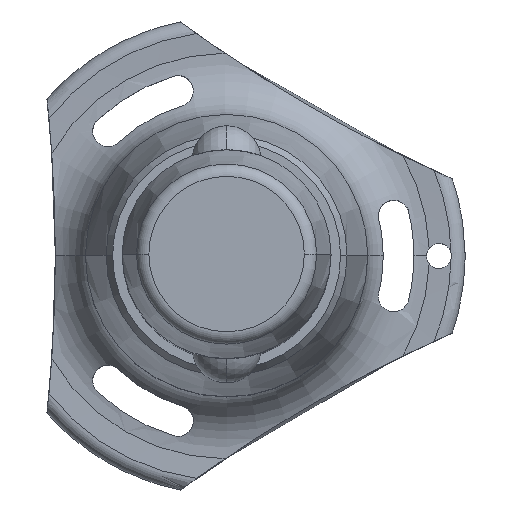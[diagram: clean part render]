
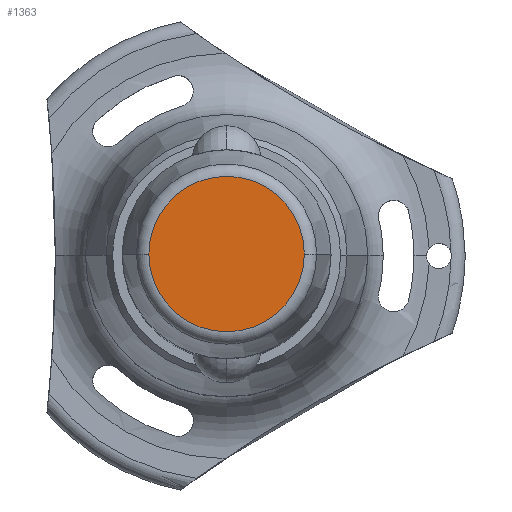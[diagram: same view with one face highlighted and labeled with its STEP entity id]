
A CAD part, top view. The second image highlights one B-rep face of the part: STEP entity #1363.
In plain terms, the highlighted planar face has unit normal (0, 0, 1).
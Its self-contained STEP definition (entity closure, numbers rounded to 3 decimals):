
#300 = DIRECTION ( 'NONE',  ( 0., 0., 1. ) ) ;
#361 = CARTESIAN_POINT ( 'NONE',  ( -9.302, 0., 22. ) ) ;
#415 = AXIS2_PLACEMENT_3D ( 'NONE', #2259, #300, #1843 ) ;
#682 = CARTESIAN_POINT ( 'NONE',  ( 0., 0., 22. ) ) ;
#764 = ORIENTED_EDGE ( 'NONE', *, *, #1319, .T. ) ;
#826 = EDGE_LOOP ( 'NONE', ( #764, #1645 ) ) ;
#871 = DIRECTION ( 'NONE',  ( 1., 0., 0. ) ) ;
#898 = CARTESIAN_POINT ( 'NONE',  ( 0., 0., 22. ) ) ;
#913 = DIRECTION ( 'NONE',  ( 1., 0., 0. ) ) ;
#983 = PLANE ( 'NONE',  #415 ) ;
#1183 = VERTEX_POINT ( 'NONE', #361 ) ;
#1319 = EDGE_CURVE ( 'NONE', #1379, #1183, #2440, .T. ) ;
#1363 = ADVANCED_FACE ( 'NONE', ( #2645 ), #983, .T. ) ;
#1379 = VERTEX_POINT ( 'NONE', #1419 ) ;
#1419 = CARTESIAN_POINT ( 'NONE',  ( 9.302, 0., 22. ) ) ;
#1503 = AXIS2_PLACEMENT_3D ( 'NONE', #682, #2674, #913 ) ;
#1645 = ORIENTED_EDGE ( 'NONE', *, *, #2707, .T. ) ;
#1843 = DIRECTION ( 'NONE',  ( 1., 0., 0. ) ) ;
#1977 = DIRECTION ( 'NONE',  ( 0., 0., 1. ) ) ;
#2259 = CARTESIAN_POINT ( 'NONE',  ( 0., 0., 22. ) ) ;
#2299 = AXIS2_PLACEMENT_3D ( 'NONE', #898, #1977, #871 ) ;
#2440 = CIRCLE ( 'NONE', #2299, 9.302 ) ;
#2645 = FACE_OUTER_BOUND ( 'NONE', #826, .T. ) ;
#2674 = DIRECTION ( 'NONE',  ( 0., 0., 1. ) ) ;
#2707 = EDGE_CURVE ( 'NONE', #1183, #1379, #2743, .T. ) ;
#2743 = CIRCLE ( 'NONE', #1503, 9.302 ) ;
